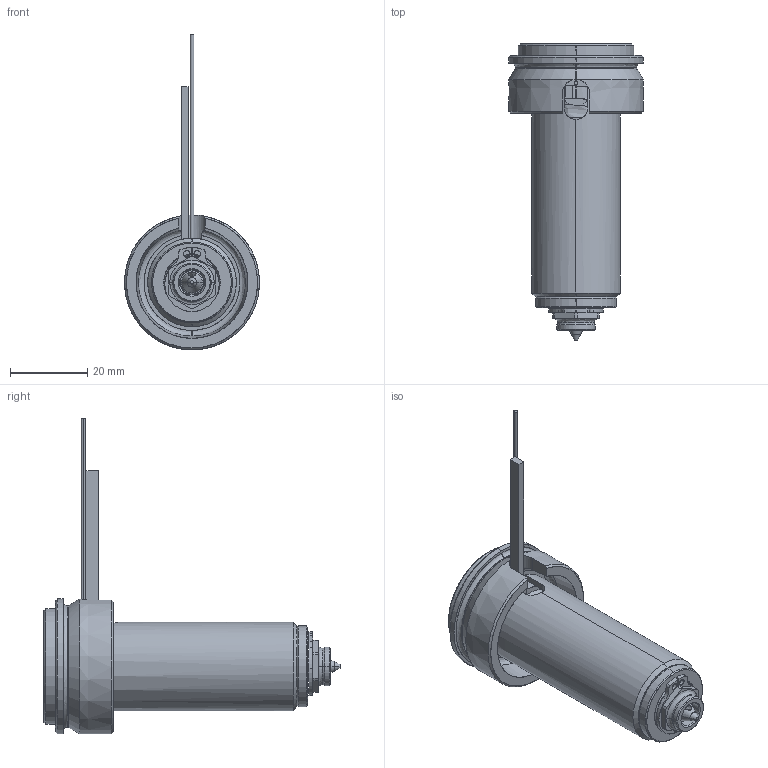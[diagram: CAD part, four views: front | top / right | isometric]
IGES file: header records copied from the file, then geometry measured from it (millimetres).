
Start section: SolidWorks IGES file using analytic representation for surfaces
Global section: file name: C:\Documents and Settings\ws-20\Desktop\TEM\UGEP3051-M-A-0 [Øf-0.90 ØC-6.0].IGS; native system: SolidWorks 2012; preprocessor: SolidWorks 2012; author: ws-20; date: 120402.112617; units: millimetre
Bounding box: 35 x 76.8 x 81.9 mm (x, y, z)
Surface area: 17331.8 mm2 (no closed solid volume)
Topology: 0 solids, 0 shells, 133 faces, 1936 edges, 1936 vertices
Faces by surface type: revolution 81, bspline 52
